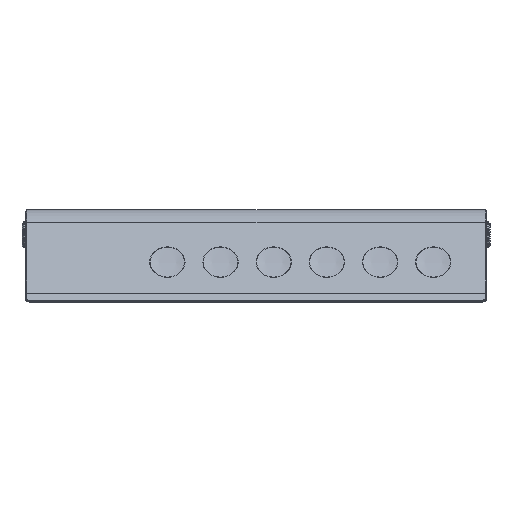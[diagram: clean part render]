
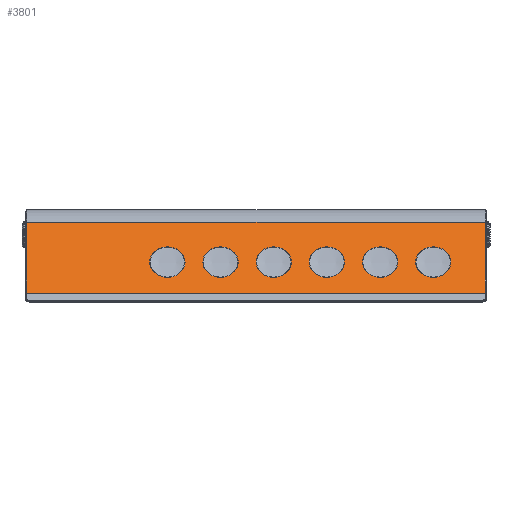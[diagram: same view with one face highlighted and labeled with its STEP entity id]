
A CAD part, top view. The second image highlights one B-rep face of the part: STEP entity #3801.
In plain terms, the highlighted planar face has unit normal (0, 0.5, 0.866).
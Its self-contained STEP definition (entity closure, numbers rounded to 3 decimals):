
#64 = ORIENTED_EDGE ( 'NONE', *, *, #11100, .F. ) ;
#360 = CIRCLE ( 'NONE', #6914, 4.974 ) ;
#430 = DIRECTION ( 'NONE',  ( 0., 0.5, 0.866 ) ) ;
#485 = DIRECTION ( 'NONE',  ( 0., 0.5, 0.866 ) ) ;
#502 = AXIS2_PLACEMENT_3D ( 'NONE', #6457, #485, #1498 ) ;
#550 = VERTEX_POINT ( 'NONE', #3824 ) ;
#583 = CARTESIAN_POINT ( 'NONE',  ( -25., 15.566, 6.013 ) ) ;
#614 = AXIS2_PLACEMENT_3D ( 'NONE', #11481, #4599, #5551 ) ;
#694 = AXIS2_PLACEMENT_3D ( 'NONE', #3743, #6864, #4801 ) ;
#891 = VERTEX_POINT ( 'NONE', #3115 ) ;
#1004 = FACE_BOUND ( 'NONE', #3027, .T. ) ;
#1043 = CARTESIAN_POINT ( 'NONE',  ( 64.659, 25.981, 0. ) ) ;
#1087 = AXIS2_PLACEMENT_3D ( 'NONE', #7754, #8792, #10694 ) ;
#1303 = FACE_BOUND ( 'NONE', #9331, .T. ) ;
#1404 = CARTESIAN_POINT ( 'NONE',  ( 35., 6.95, 10.987 ) ) ;
#1463 = AXIS2_PLACEMENT_3D ( 'NONE', #5565, #9587, #12627 ) ;
#1464 = CARTESIAN_POINT ( 'NONE',  ( 65., 22.481, 2.021 ) ) ;
#1498 = DIRECTION ( 'NONE',  ( 0., 0.866, -0.5 ) ) ;
#1643 = DIRECTION ( 'NONE',  ( 1., 0., 0. ) ) ;
#1662 = VERTEX_POINT ( 'NONE', #5734 ) ;
#1663 = VERTEX_POINT ( 'NONE', #12617 ) ;
#1692 = CARTESIAN_POINT ( 'NONE',  ( 50., 11.258, 8.5 ) ) ;
#1713 = EDGE_LOOP ( 'NONE', ( #7262, #12273 ) ) ;
#1736 = LINE ( 'NONE', #1043, #3744 ) ;
#1981 = CIRCLE ( 'NONE', #1087, 4.974 ) ;
#1982 = EDGE_CURVE ( 'NONE', #1663, #8133, #12384, .T. ) ;
#2050 = EDGE_CURVE ( 'NONE', #4010, #1662, #1981, .T. ) ;
#2104 = ORIENTED_EDGE ( 'NONE', *, *, #2558, .F. ) ;
#2122 = CIRCLE ( 'NONE', #12024, 4.974 ) ;
#2375 = CARTESIAN_POINT ( 'NONE',  ( 50., 15.566, 6.013 ) ) ;
#2558 = EDGE_CURVE ( 'NONE', #12632, #5910, #5556, .T. ) ;
#2616 = ORIENTED_EDGE ( 'NONE', *, *, #2050, .F. ) ;
#2645 = AXIS2_PLACEMENT_3D ( 'NONE', #10161, #4215, #11157 ) ;
#2762 = VECTOR ( 'NONE', #9276, 1000. ) ;
#2809 = VERTEX_POINT ( 'NONE', #5391 ) ;
#3027 = EDGE_LOOP ( 'NONE', ( #3843, #11368 ) ) ;
#3115 = CARTESIAN_POINT ( 'NONE',  ( 50., 6.95, 10.987 ) ) ;
#3169 = DIRECTION ( 'NONE',  ( 0., 0.5, 0.866 ) ) ;
#3540 = CIRCLE ( 'NONE', #10584, 4.974 ) ;
#3607 = DIRECTION ( 'NONE',  ( 0., 0.5, 0.866 ) ) ;
#3628 = VERTEX_POINT ( 'NONE', #10045 ) ;
#3633 = FACE_BOUND ( 'NONE', #1713, .T. ) ;
#3637 = VERTEX_POINT ( 'NONE', #12734 ) ;
#3743 = CARTESIAN_POINT ( 'NONE',  ( 20., 11.258, 8.5 ) ) ;
#3744 = VECTOR ( 'NONE', #9934, 1000. ) ;
#3801 = ADVANCED_FACE ( 'NONE', ( #11558, #10621, #1303, #6292, #1004, #3633, #5034 ), #11240, .F. ) ;
#3824 = CARTESIAN_POINT ( 'NONE',  ( -10., 6.95, 10.987 ) ) ;
#3843 = ORIENTED_EDGE ( 'NONE', *, *, #6812, .F. ) ;
#3960 = ORIENTED_EDGE ( 'NONE', *, *, #8617, .F. ) ;
#4010 = VERTEX_POINT ( 'NONE', #583 ) ;
#4136 = EDGE_CURVE ( 'NONE', #9873, #550, #360, .T. ) ;
#4215 = DIRECTION ( 'NONE',  ( 0., -0.5, -0.866 ) ) ;
#4391 = CIRCLE ( 'NONE', #7891, 4.974 ) ;
#4413 = EDGE_LOOP ( 'NONE', ( #7028, #10886, #64, #8074 ) ) ;
#4462 = EDGE_CURVE ( 'NONE', #3628, #6542, #4391, .T. ) ;
#4599 = DIRECTION ( 'NONE',  ( 0., 0.5, 0.866 ) ) ;
#4801 = DIRECTION ( 'NONE',  ( 0., 0.866, -0.5 ) ) ;
#4834 = DIRECTION ( 'NONE',  ( 0., 0.5, 0.866 ) ) ;
#5015 = CARTESIAN_POINT ( 'NONE',  ( 65., 2.5, 13.557 ) ) ;
#5034 = FACE_BOUND ( 'NONE', #5076, .T. ) ;
#5076 = EDGE_LOOP ( 'NONE', ( #5496, #5937 ) ) ;
#5391 = CARTESIAN_POINT ( 'NONE',  ( 64.659, 2.5, 13.557 ) ) ;
#5453 = AXIS2_PLACEMENT_3D ( 'NONE', #8602, #3607, #10553 ) ;
#5465 = EDGE_LOOP ( 'NONE', ( #7107, #2104 ) ) ;
#5496 = ORIENTED_EDGE ( 'NONE', *, *, #10859, .F. ) ;
#5551 = DIRECTION ( 'NONE',  ( 0., 0.866, -0.5 ) ) ;
#5556 = CIRCLE ( 'NONE', #5453, 4.974 ) ;
#5565 = CARTESIAN_POINT ( 'NONE',  ( -10., 11.258, 8.5 ) ) ;
#5601 = CIRCLE ( 'NONE', #694, 4.974 ) ;
#5734 = CARTESIAN_POINT ( 'NONE',  ( -25., 6.95, 10.987 ) ) ;
#5891 = DIRECTION ( 'NONE',  ( 0., 0.866, -0.5 ) ) ;
#5910 = VERTEX_POINT ( 'NONE', #7621 ) ;
#5937 = ORIENTED_EDGE ( 'NONE', *, *, #6599, .F. ) ;
#5940 = CIRCLE ( 'NONE', #1463, 4.974 ) ;
#5982 = CIRCLE ( 'NONE', #10986, 4.974 ) ;
#6102 = EDGE_CURVE ( 'NONE', #6542, #3628, #10116, .T. ) ;
#6203 = VECTOR ( 'NONE', #6968, 1000. ) ;
#6242 = DIRECTION ( 'NONE',  ( 0., 0.5, 0.866 ) ) ;
#6260 = ORIENTED_EDGE ( 'NONE', *, *, #11705, .F. ) ;
#6292 = FACE_BOUND ( 'NONE', #5465, .T. ) ;
#6389 = DIRECTION ( 'NONE',  ( 0., 0.866, -0.5 ) ) ;
#6457 = CARTESIAN_POINT ( 'NONE',  ( 50., 11.258, 8.5 ) ) ;
#6520 = LINE ( 'NONE', #5015, #6203 ) ;
#6542 = VERTEX_POINT ( 'NONE', #1404 ) ;
#6599 = EDGE_CURVE ( 'NONE', #891, #10476, #9359, .T. ) ;
#6607 = VERTEX_POINT ( 'NONE', #8342 ) ;
#6812 = EDGE_CURVE ( 'NONE', #9850, #3637, #5982, .T. ) ;
#6864 = DIRECTION ( 'NONE',  ( 0., 0.5, 0.866 ) ) ;
#6900 = CARTESIAN_POINT ( 'NONE',  ( 20., 11.258, 8.5 ) ) ;
#6914 = AXIS2_PLACEMENT_3D ( 'NONE', #10719, #4834, #5891 ) ;
#6968 = DIRECTION ( 'NONE',  ( -1., 0., 0. ) ) ;
#7028 = ORIENTED_EDGE ( 'NONE', *, *, #8791, .F. ) ;
#7107 = ORIENTED_EDGE ( 'NONE', *, *, #10260, .F. ) ;
#7126 = CARTESIAN_POINT ( 'NONE',  ( 35., 11.258, 8.5 ) ) ;
#7262 = ORIENTED_EDGE ( 'NONE', *, *, #4462, .F. ) ;
#7621 = CARTESIAN_POINT ( 'NONE',  ( 5., 15.566, 6.013 ) ) ;
#7624 = DIRECTION ( 'NONE',  ( 0., 0.866, -0.5 ) ) ;
#7754 = CARTESIAN_POINT ( 'NONE',  ( -25., 11.258, 8.5 ) ) ;
#7891 = AXIS2_PLACEMENT_3D ( 'NONE', #8314, #430, #6389 ) ;
#8021 = VECTOR ( 'NONE', #1643, 1000. ) ;
#8074 = ORIENTED_EDGE ( 'NONE', *, *, #10989, .F. ) ;
#8110 = CARTESIAN_POINT ( 'NONE',  ( 64.659, 22.481, 2.021 ) ) ;
#8133 = VERTEX_POINT ( 'NONE', #8110 ) ;
#8209 = DIRECTION ( 'NONE',  ( 0., 0.866, -0.5 ) ) ;
#8251 = CARTESIAN_POINT ( 'NONE',  ( 5., 6.95, 10.987 ) ) ;
#8314 = CARTESIAN_POINT ( 'NONE',  ( 35., 11.258, 8.5 ) ) ;
#8342 = CARTESIAN_POINT ( 'NONE',  ( -64.659, 2.5, 13.557 ) ) ;
#8602 = CARTESIAN_POINT ( 'NONE',  ( 5., 11.258, 8.5 ) ) ;
#8617 = EDGE_CURVE ( 'NONE', #550, #9873, #5940, .T. ) ;
#8791 = EDGE_CURVE ( 'NONE', #8133, #2809, #1736, .T. ) ;
#8792 = DIRECTION ( 'NONE',  ( 0., 0.5, 0.866 ) ) ;
#8893 = CARTESIAN_POINT ( 'NONE',  ( -10., 15.566, 6.013 ) ) ;
#9055 = AXIS2_PLACEMENT_3D ( 'NONE', #7126, #6242, #8209 ) ;
#9276 = DIRECTION ( 'NONE',  ( 0., 0.866, -0.5 ) ) ;
#9331 = EDGE_LOOP ( 'NONE', ( #12799, #3960 ) ) ;
#9349 = CARTESIAN_POINT ( 'NONE',  ( -64.659, 25.981, 0. ) ) ;
#9359 = CIRCLE ( 'NONE', #502, 4.974 ) ;
#9458 = EDGE_CURVE ( 'NONE', #3637, #9850, #5601, .T. ) ;
#9587 = DIRECTION ( 'NONE',  ( 0., 0.5, 0.866 ) ) ;
#9850 = VERTEX_POINT ( 'NONE', #10752 ) ;
#9873 = VERTEX_POINT ( 'NONE', #8893 ) ;
#9934 = DIRECTION ( 'NONE',  ( 0., -0.866, 0.5 ) ) ;
#9985 = DIRECTION ( 'NONE',  ( 0., 0.866, -0.5 ) ) ;
#10045 = CARTESIAN_POINT ( 'NONE',  ( 35., 15.566, 6.013 ) ) ;
#10116 = CIRCLE ( 'NONE', #9055, 4.974 ) ;
#10161 = CARTESIAN_POINT ( 'NONE',  ( 65., 25.981, 0. ) ) ;
#10260 = EDGE_CURVE ( 'NONE', #5910, #12632, #10323, .T. ) ;
#10323 = CIRCLE ( 'NONE', #614, 4.974 ) ;
#10476 = VERTEX_POINT ( 'NONE', #2375 ) ;
#10532 = EDGE_LOOP ( 'NONE', ( #2616, #6260 ) ) ;
#10549 = DIRECTION ( 'NONE',  ( 0., 0.5, 0.866 ) ) ;
#10553 = DIRECTION ( 'NONE',  ( 0., 0.866, -0.5 ) ) ;
#10584 = AXIS2_PLACEMENT_3D ( 'NONE', #1692, #10698, #7624 ) ;
#10621 = FACE_BOUND ( 'NONE', #10532, .T. ) ;
#10671 = LINE ( 'NONE', #9349, #2762 ) ;
#10694 = DIRECTION ( 'NONE',  ( 0., 0.866, -0.5 ) ) ;
#10698 = DIRECTION ( 'NONE',  ( 0., 0.5, 0.866 ) ) ;
#10719 = CARTESIAN_POINT ( 'NONE',  ( -10., 11.258, 8.5 ) ) ;
#10752 = CARTESIAN_POINT ( 'NONE',  ( 20., 15.566, 6.013 ) ) ;
#10859 = EDGE_CURVE ( 'NONE', #10476, #891, #3540, .T. ) ;
#10886 = ORIENTED_EDGE ( 'NONE', *, *, #1982, .F. ) ;
#10986 = AXIS2_PLACEMENT_3D ( 'NONE', #6900, #3169, #9985 ) ;
#10989 = EDGE_CURVE ( 'NONE', #2809, #6607, #6520, .T. ) ;
#11100 = EDGE_CURVE ( 'NONE', #6607, #1663, #10671, .T. ) ;
#11157 = DIRECTION ( 'NONE',  ( 0., 0.866, -0.5 ) ) ;
#11240 = PLANE ( 'NONE',  #2645 ) ;
#11368 = ORIENTED_EDGE ( 'NONE', *, *, #9458, .F. ) ;
#11481 = CARTESIAN_POINT ( 'NONE',  ( 5., 11.258, 8.5 ) ) ;
#11502 = CARTESIAN_POINT ( 'NONE',  ( -25., 11.258, 8.5 ) ) ;
#11558 = FACE_OUTER_BOUND ( 'NONE', #4413, .T. ) ;
#11705 = EDGE_CURVE ( 'NONE', #1662, #4010, #2122, .T. ) ;
#12024 = AXIS2_PLACEMENT_3D ( 'NONE', #11502, #10549, #12421 ) ;
#12273 = ORIENTED_EDGE ( 'NONE', *, *, #6102, .F. ) ;
#12384 = LINE ( 'NONE', #1464, #8021 ) ;
#12421 = DIRECTION ( 'NONE',  ( 0., 0.866, -0.5 ) ) ;
#12617 = CARTESIAN_POINT ( 'NONE',  ( -64.659, 22.481, 2.021 ) ) ;
#12627 = DIRECTION ( 'NONE',  ( 0., 0.866, -0.5 ) ) ;
#12632 = VERTEX_POINT ( 'NONE', #8251 ) ;
#12734 = CARTESIAN_POINT ( 'NONE',  ( 20., 6.95, 10.987 ) ) ;
#12799 = ORIENTED_EDGE ( 'NONE', *, *, #4136, .F. ) ;
